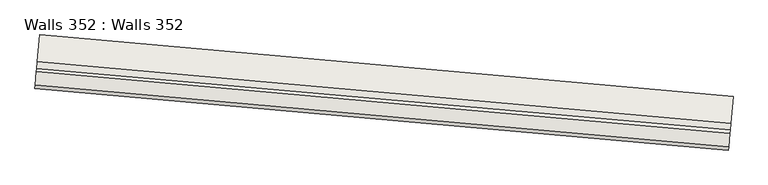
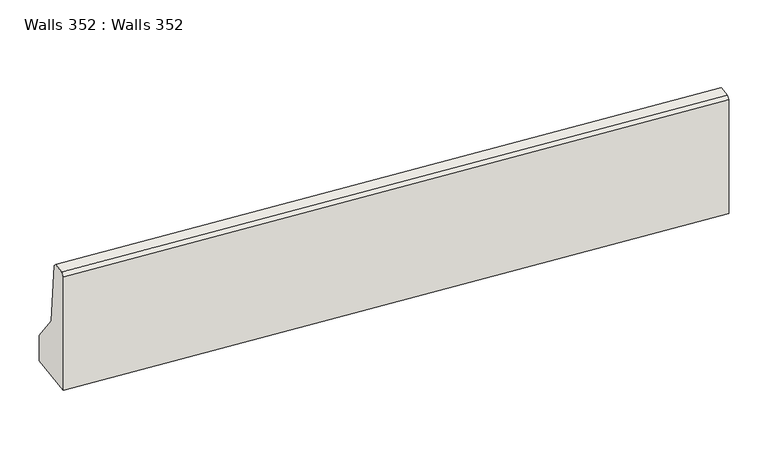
"""IFC4 building model written with IfcOpenShell, lengths in millimetres: wall geometry, Walls 352 : Walls 352."""

from ifc_helpers import new_model, si_unit, frame, origin, place, context, project, spatial, polyline, outline, extrude, source, transform, mapped, element, save


def walls_352_walls_352_d46fe862(model_context):
    return source(origin(), model_context, "Body", "SweptSolid", [
        extrude(outline(polyline([(636680.0, 400.0000001), (636930.0, 200.0), (637435.0, 150.0000001), (637460.0, 125.0), (637460.0, 25.0), (637435.0, 0.0), (636460.0, 0.0), (636460.0, 400.0000001), (636680.0, 400.0000001)])), frame((-737271.1902083, -413397.9171391, 0.0), z_axis=(-0.9960550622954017, 0.08873732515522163, 0.0), x_axis=(0.0, 0.0, 1.0)), (0.0, 0.0, 1.0), 5150.0000001),
    ])


if __name__ == "__main__":
    model = new_model("IFC4")
    model_context = context("Model", 3, world=origin())
    ifc_project = project(units=[si_unit("LENGTHUNIT", "METRE", prefix="MILLI")], contexts=[model_context])
    site = spatial("IfcSite", under=ifc_project)
    building = spatial("IfcBuilding", under=site)
    placement = place(None, origin())
    walls_352_walls_352_shape = walls_352_walls_352_d46fe862(model_context)
    element("IfcWall", 1, ObjectType="Walls 352 : Walls 352", at=placement, inside=building, context=model_context, shape_type="MappedRepresentation", body=[
        mapped(walls_352_walls_352_shape, transform((0.0, 0.0, 0.0), x_axis=(1.0, 0.0, 0.0), y_axis=(0.0, 1.0, 0.0), z_axis=(0.0, 0.0, 1.0))),
    ])
    save(model, "model.ifc")
